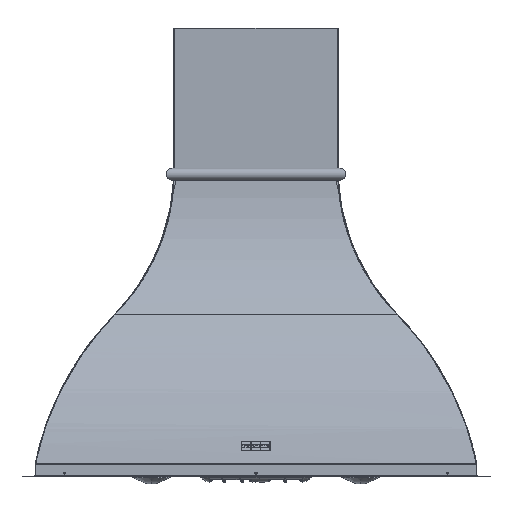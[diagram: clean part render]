
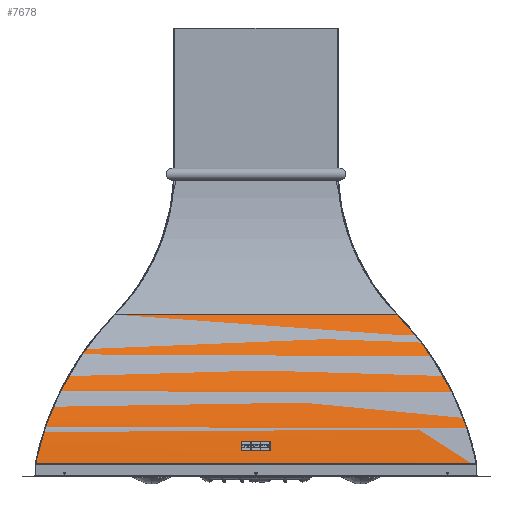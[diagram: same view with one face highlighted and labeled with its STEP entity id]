
A CAD part, front view. The second image highlights one B-rep face of the part: STEP entity #7678.
In plain terms, the highlighted cylindrical face has radius 500 mm (diameter 1000 mm), a partial arc.
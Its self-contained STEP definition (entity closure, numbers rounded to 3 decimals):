
#5961=CYLINDRICAL_SURFACE('',#57540,500.);
#7678=ADVANCED_FACE('',(#10987),#5961,.T.);
#10987=FACE_OUTER_BOUND('',#14335,.T.);
#14335=EDGE_LOOP('',(#19122,#19123,#19124,#19125));
#19122=ORIENTED_EDGE('',*,*,#34934,.F.);
#19123=ORIENTED_EDGE('',*,*,#34948,.T.);
#19124=ORIENTED_EDGE('',*,*,#34936,.T.);
#19125=ORIENTED_EDGE('',*,*,#34937,.T.);
#34934=EDGE_CURVE('',#48929,#48928,#43252,.T.);
#34936=EDGE_CURVE('',#48931,#48930,#43254,.T.);
#34937=EDGE_CURVE('',#48930,#48928,#43255,.T.);
#34948=EDGE_CURVE('',#48929,#48931,#43263,.T.);
#43252=B_SPLINE_CURVE_WITH_KNOTS('',1,(#73949,#73950),.UNSPECIFIED.,.F.,
 .F.,(2,2),(-739.,0.),.UNSPECIFIED.);
#43254=B_SPLINE_CURVE_WITH_KNOTS('',1,(#73953,#73954),.UNSPECIFIED.,.F.,
 .F.,(2,2),(-473.948,0.),.UNSPECIFIED.);
#43255=B_SPLINE_CURVE_WITH_KNOTS('',3,(#73955,#73956,#73957,#73958,#73959,
#73960,#73961,#73962,#73963),.UNSPECIFIED.,.F.,.F.,(4,1,1,1,1,1,4),(0.,
52.663,105.327,157.99,210.653,263.317,
315.98),.UNSPECIFIED.);
#43263=B_SPLINE_CURVE_WITH_KNOTS('',3,(#74003,#74004,#74005,#74006,#74007,
#74008,#74009,#74010,#74011),.UNSPECIFIED.,.F.,.F.,(4,1,1,1,1,1,4),(0.,
52.663,105.327,157.99,210.653,263.317,
315.98),.UNSPECIFIED.);
#48928=VERTEX_POINT('',#73889);
#48929=VERTEX_POINT('',#73890);
#48930=VERTEX_POINT('',#73891);
#48931=VERTEX_POINT('',#73892);
#57540=AXIS2_PLACEMENT_3D('',#73781,#63087,$);
#63087=DIRECTION('',(1.,0.,0.));
#73781=CARTESIAN_POINT('',(0.,-71.078,-71.635));
#73889=CARTESIAN_POINT('',(-369.5,20.,420.));
#73890=CARTESIAN_POINT('',(369.5,20.,420.));
#73891=CARTESIAN_POINT('',(-236.974,270.,293.968));
#73892=CARTESIAN_POINT('',(236.974,270.,293.968));
#73949=CARTESIAN_POINT('',(369.5,20.,420.));
#73950=CARTESIAN_POINT('',(-369.5,20.,420.));
#73953=CARTESIAN_POINT('',(236.974,270.,293.968));
#73954=CARTESIAN_POINT('',(-236.974,270.,293.968));
#73955=CARTESIAN_POINT('',(-236.974,270.,293.968));
#73956=CARTESIAN_POINT('',(-248.864,257.843,305.309));
#73957=CARTESIAN_POINT('',(-271.179,232.558,326.639));
#73958=CARTESIAN_POINT('',(-300.333,191.921,354.537));
#73959=CARTESIAN_POINT('',(-324.655,149.798,377.776));
#73960=CARTESIAN_POINT('',(-344.44,106.383,396.595));
#73961=CARTESIAN_POINT('',(-359.599,62.55,410.879));
#73962=CARTESIAN_POINT('',(-366.646,34.037,417.4));
#73963=CARTESIAN_POINT('',(-369.5,20.,420.));
#74003=CARTESIAN_POINT('',(369.5,20.,420.));
#74004=CARTESIAN_POINT('',(366.646,34.038,417.399));
#74005=CARTESIAN_POINT('',(359.598,62.555,410.878));
#74006=CARTESIAN_POINT('',(344.438,106.389,396.593));
#74007=CARTESIAN_POINT('',(324.652,149.803,377.774));
#74008=CARTESIAN_POINT('',(300.331,191.925,354.535));
#74009=CARTESIAN_POINT('',(271.178,232.56,326.638));
#74010=CARTESIAN_POINT('',(248.864,257.844,305.309));
#74011=CARTESIAN_POINT('',(236.974,270.,293.968));
